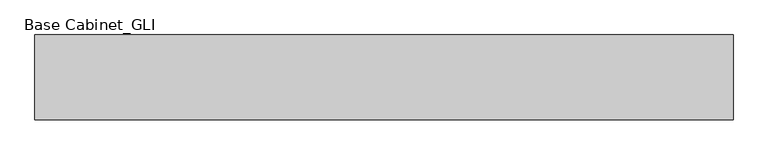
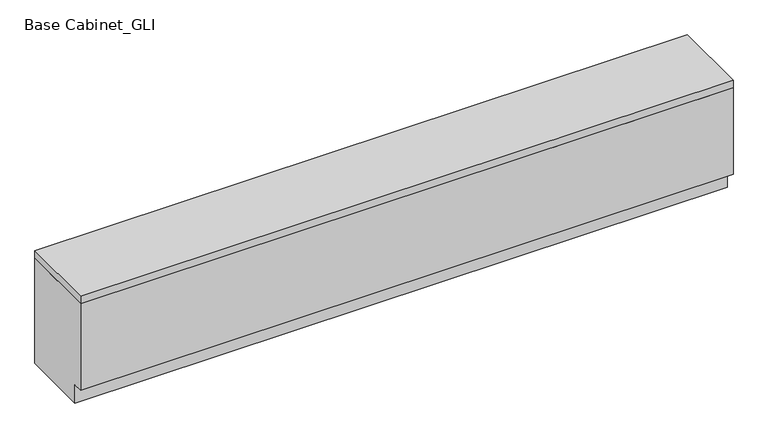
"""IFC4 building model written with IfcOpenShell, lengths in millimetres: proxy geometry, Base Cabinet_GLI : 900h x400d."""

import ifcopenshell
import ifcopenshell.guid

model = None  # the IFC model being written
_history = None  # IfcOwnerHistory: only IFC2X3 demands one
_inside = {}  # id of a spatial element -> (the spatial element, [elements in it])
_under = {}  # id of a project, library or spatial element -> (it, [spatial elements below it])
_declared = {}  # id of a project -> (the project, [libraries it declares])
_typed = {}  # id of a type object -> (the type object, [elements of that type])
_made_of = {}  # id of a material, layer set ... -> (it, [elements and type objects made of it])


def new_model(schema):
    """Start an empty IFC model of exactly this schema.

    Asked for "IFC4X3", IfcOpenShell would pick the latest addendum, in which some entities
    have other attributes; the version numbers below select the first issue.
    IFC2X3 requires an IfcOwnerHistory on every rooted entity: one is made here for all.
    """
    global model, _history
    if schema == "IFC4X3":
        model = ifcopenshell.file(schema_version=(4, 3, 0, 0))
    else:
        model = ifcopenshell.file(schema=schema)
    _inside.clear()
    _under.clear()
    _declared.clear()
    _typed.clear()
    _made_of.clear()
    _history = None
    if model.schema == "IFC2X3":
        org = make("IfcOrganization", Name="unknown")
        user = make(
            "IfcPersonAndOrganization",
            ThePerson=make("IfcPerson", FamilyName="unknown"),
            TheOrganization=org,
        )
        app = make(
            "IfcApplication",
            ApplicationDeveloper=org,
            Version="unknown",
            ApplicationFullName="unknown",
            ApplicationIdentifier="unknown",
        )
        _history = make(
            "IfcOwnerHistory",
            OwningUser=user,
            OwningApplication=app,
            ChangeAction="ADDED",
            CreationDate=0,
        )
    return model


def make(cls, **values):
    """One entity of the class cls with the attributes given. An attribute that is None is left unset."""
    return model.create_entity(
        cls, **{name: value for name, value in values.items() if value is not None}
    )


def rooted(cls, **values):
    """An entity with a GlobalId (a new one), such as an element, a storey or a relation."""
    return make(cls, GlobalId=ifcopenshell.guid.new(), OwnerHistory=_history, **values)


def si_unit(unit_type, name, prefix=None):
    """IfcSIUnit, for example si_unit("LENGTHUNIT", "METRE", prefix="MILLI")."""
    return make("IfcSIUnit", UnitType=unit_type, Prefix=prefix, Name=name)


def assignment(units):
    """IfcUnitAssignment: the units of a project."""
    return None if units is None else make("IfcUnitAssignment", Units=units)


def point(xyz):
    """IfcCartesianPoint."""
    return None if xyz is None else make("IfcCartesianPoint", Coordinates=xyz)


def direction(xyz):
    """IfcDirection."""
    return None if xyz is None else make("IfcDirection", DirectionRatios=xyz)


def frame(location, z_axis=None, x_axis=None):
    """IfcAxis2Placement3D, a coordinate frame: its origin and axes. An axis left out is left unset."""
    return make(
        "IfcAxis2Placement3D",
        Location=point(location),
        Axis=direction(z_axis),
        RefDirection=direction(x_axis),
    )


def origin():
    """The frame at (0, 0, 0) with its axes left unset."""
    return frame((0.0, 0.0, 0.0))


def place(relative_to, where):
    """IfcLocalPlacement: puts the frame where relative to a parent placement (None: the world)."""
    return make(
        "IfcLocalPlacement", PlacementRelTo=relative_to, RelativePlacement=where
    )


def context(
    kind, dimensions, precision=None, world=None, true_north=None, identifier=None
):
    """IfcGeometricRepresentationContext, for example the 3D "Model" context."""
    return make(
        "IfcGeometricRepresentationContext",
        ContextIdentifier=identifier,
        ContextType=kind,
        CoordinateSpaceDimension=dimensions,
        Precision=precision,
        WorldCoordinateSystem=world,
        TrueNorth=true_north,
    )


def project(units=None, contexts=None):
    """IfcProject with its units and contexts."""
    return rooted(
        "IfcProject",
        Name="project",
        RepresentationContexts=contexts,
        UnitsInContext=assignment(units),
    )


def spatial(cls, under=None, at=None, **own):
    """A site, building, storey or space (cls), placed at a placement, below another one or the project."""
    s = rooted(cls, ObjectPlacement=at, **own)
    if under is not None:
        _under.setdefault(under.id(), (under, []))[1].append(s)
    return s


def polyline(points):
    """IfcPolyline through the points."""
    return make("IfcPolyline", Points=[point(p) for p in points])


def outline(outer, holes=None, kind="AREA"):
    """IfcArbitraryClosedProfileDef: a profile drawn as a closed curve; with holes, ...WithVoids."""
    if holes is None:
        return make("IfcArbitraryClosedProfileDef", ProfileType=kind, OuterCurve=outer)
    return make(
        "IfcArbitraryProfileDefWithVoids",
        ProfileType=kind,
        OuterCurve=outer,
        InnerCurves=holes,
    )


def extrude(swept, where, along, depth):
    """IfcExtrudedAreaSolid: the profile swept, set in the frame where, extruded along a direction by depth."""
    return make(
        "IfcExtrudedAreaSolid",
        SweptArea=swept,
        Position=where,
        ExtrudedDirection=direction(along),
        Depth=depth,
    )


def shape(context_of_items, identifier, shape_type, items):
    """IfcShapeRepresentation: the items that make up one representation, for example the "Body"."""
    return make(
        "IfcShapeRepresentation",
        ContextOfItems=context_of_items,
        RepresentationIdentifier=identifier,
        RepresentationType=shape_type,
        Items=items,
    )


def source(mapping_origin, context_of_items, identifier, shape_type, items):
    """IfcRepresentationMap: a shape defined once, which mapped items show again and again."""
    return make(
        "IfcRepresentationMap",
        MappingOrigin=mapping_origin,
        MappedRepresentation=shape(context_of_items, identifier, shape_type, items),
    )


def transform(
    local_origin,
    x_axis=None,
    y_axis=None,
    z_axis=None,
    scale=None,
    scale2=None,
    scale3=None,
    uniform=True,
):
    """IfcCartesianTransformationOperator3D, or its non-uniform kind. x_axis, y_axis, z_axis: its Axis1, 2, 3."""
    if uniform:
        return make(
            "IfcCartesianTransformationOperator3D",
            Axis1=direction(x_axis),
            Axis2=direction(y_axis),
            LocalOrigin=point(local_origin),
            Scale=scale,
            Axis3=direction(z_axis),
        )
    return make(
        "IfcCartesianTransformationOperator3DnonUniform",
        Axis1=direction(x_axis),
        Axis2=direction(y_axis),
        LocalOrigin=point(local_origin),
        Scale=scale,
        Axis3=direction(z_axis),
        Scale2=scale2,
        Scale3=scale3,
    )


def mapped(mapping_source, mapping_target):
    """IfcMappedItem: shows the shape of a source again, moved by a transform."""
    return make(
        "IfcMappedItem", MappingSource=mapping_source, MappingTarget=mapping_target
    )


def made_of(thing, what):
    """Note that an element or type object is made of a material, layer set ...; save() writes the relation."""
    if what is not None:
        _made_of.setdefault(what.id(), (what, []))[1].append(thing)
    return thing


def element(
    cls,
    number,
    at=None,
    inside=None,
    cuts=None,
    type_object=None,
    material=None,
    context=None,
    identifier="Body",
    shape_type=None,
    held_by="IfcProductDefinitionShape",
    body=None,
    shapes=None,
    **own,
):
    """One element of the class cls, such as IfcWall. Its Tag is "e" and its number.

    at: its placement. inside: the storey or other place that contains it. cuts: it is an
    opening in that element (IfcRelVoidsElement). A single representation is given by context,
    identifier, shape_type and body (its items); several are given by shapes. held_by: the class
    of the entity that holds the representations. save() writes the other relations.
    """
    e = rooted(cls, Tag="e%d" % number, ObjectPlacement=at, **own)
    if body is not None:
        shapes = [shape(context, identifier, shape_type, body)]
    if shapes is not None:
        e.Representation = make(held_by, Representations=shapes)
    if inside is not None:
        _inside.setdefault(inside.id(), (inside, []))[1].append(e)
    if cuts is not None:
        rooted(
            "IfcRelVoidsElement", RelatingBuildingElement=cuts, RelatedOpeningElement=e
        )
    if type_object is not None:
        _typed.setdefault(type_object.id(), (type_object, []))[1].append(e)
    return made_of(e, material)


def aggregate(whole, parts):
    """IfcRelAggregates: a whole, such as a stair, and the parts it consists of."""
    return rooted("IfcRelAggregates", RelatingObject=whole, RelatedObjects=parts)


def save(model, path):
    """Write the relations noted so far, then the file.

    IfcRelAggregates (storeys below a building ...), IfcRelContainedInSpatialStructure (elements
    in a storey), IfcRelDefinesByType, IfcRelAssociatesMaterial and IfcRelDeclares: one each for
    every whole, place, type object, material and project.
    """
    for whole, parts in _under.values():
        aggregate(whole, parts)
    for where, things in _inside.values():
        rooted(
            "IfcRelContainedInSpatialStructure",
            RelatedElements=things,
            RelatingStructure=where,
        )
    for kind, things in _typed.values():
        rooted("IfcRelDefinesByType", RelatedObjects=things, RelatingType=kind)
    for what, things in _made_of.values():
        rooted("IfcRelAssociatesMaterial", RelatedObjects=things, RelatingMaterial=what)
    for by, libraries in _declared.values():
        rooted("IfcRelDeclares", RelatingContext=by, RelatedDefinitions=libraries)
    model.write(path)


def base_cabinet_gli_0036e160(model_context):
    return source(origin(), model_context, "Body", "SweptSolid", [
        extrude(outline(polyline([(-400.0, 100.0), (-400.0, 560.0), (0.0, 560.0), (0.0, 0.0), (-350.0, 0.0), (-350.0, 100.0), (-400.0, 100.0)])), frame((0.0, 0.0, 0.0), z_axis=(1.0, 0.0, 0.0), x_axis=(0.0, 1.0, 0.0)), (0.0, 0.0, 1.0), 3290.0),
        extrude(outline(polyline([(3290.0, 0.0), (3290.0, -400.0), (0.0, -400.0), (0.0, 0.0), (3290.0, 0.0)])), frame((0.0, 0.0, 560.0), z_axis=(0.0, 0.0, 1.0), x_axis=(1.0, 0.0, 0.0)), (0.0, 0.0, 1.0), 40.0),
    ])


if __name__ == "__main__":
    model = new_model("IFC4")
    model_context = context("Model", 3, world=origin())
    ifc_project = project(units=[si_unit("LENGTHUNIT", "METRE", prefix="MILLI")], contexts=[model_context])
    site = spatial("IfcSite", under=ifc_project)
    building = spatial("IfcBuilding", under=site)
    placement = place(None, origin())
    base_cabinet_gli_shape = base_cabinet_gli_0036e160(model_context)
    element("IfcBuildingElementProxy", 1, Name="Base Cabinet_GLI : 900h x400d", ObjectType="Base Cabinet_GLI : 900h x400d", at=placement, inside=building, context=model_context, shape_type="MappedRepresentation", body=[
        mapped(base_cabinet_gli_shape, transform((0.0, 0.0, 0.0), x_axis=(1.0, 0.0, 0.0), y_axis=(0.0, 1.0, 0.0), z_axis=(0.0, 0.0, 1.0))),
    ])
    save(model, "model.ifc")
